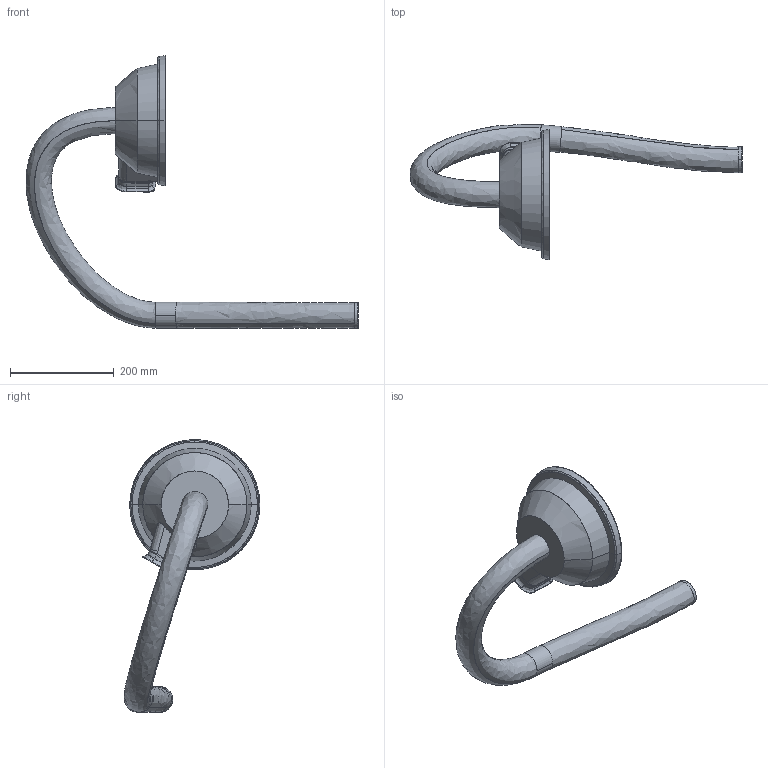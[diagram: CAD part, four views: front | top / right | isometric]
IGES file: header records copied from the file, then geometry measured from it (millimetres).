
Start section: SolidWorks IGES file using analytic representation for surfaces
Global section: file name: C:\DATA\SAP_DOC\LW\IRB 6730\IRB6730-MH3_240kg-290_OC_01_SW_J\Export\IRB6730-MH3_240kg-290_OC_01_IGES_J\IRB6730-MH3_240kg-290_OC_00_LINK03b_CABLE.igs; native system: SolidWorks 2024; preprocessor: SolidWorks 2024; author: SEJOVAS3; date: 260526.113500; units: millimetre
Bounding box: 640.85 x 262.16 x 526.62 mm (x, y, z)
Surface area: 306742.6 mm2 (no closed solid volume)
Topology: 0 solids, 0 shells, 110 faces, 1155 edges, 1155 vertices
Faces by surface type: bspline 68, revolution 42
